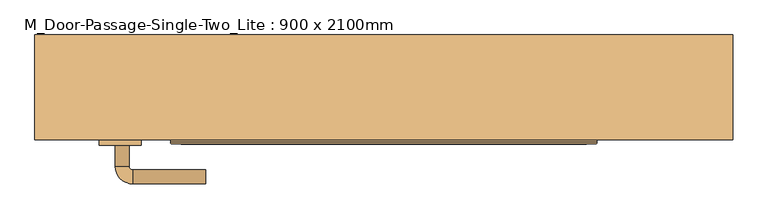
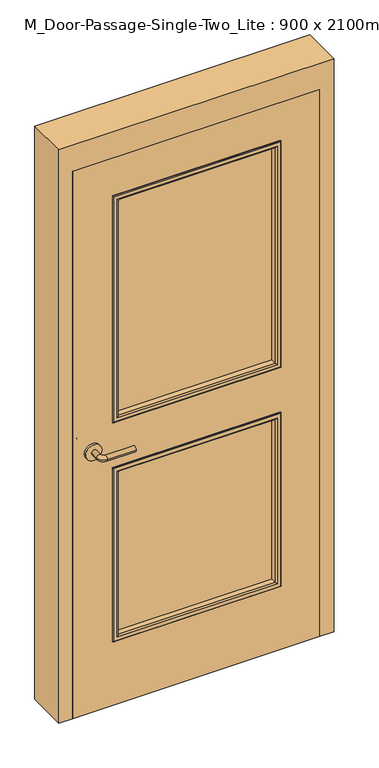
"""IFC4 building model written with IfcOpenShell, lengths in millimetres: door geometry, M_Door-Passage-Single-Two_Lite : 900 x 2100mm."""

from ifc_helpers import new_model, si_unit, point, frame, frame_2d, origin, place, context, project, spatial, polyline, circle_curve, ellipse_curve, trimmed, segment, composite_curve, outline, extrude, faceted_brep, source, transform, mapped, element, save
from ifc_brep_helpers import plane_surface, cylinder_surface, revolved_surface, advanced_brep


def m_door_passage_single_two_lite_900_x_2100mm_fdf17de1(model_context):
    return source(origin(), model_context, "Body", "SolidModel", [
        advanced_brep(
        [(-384.990625, 26.65, 1000.0), (-364.990625, 26.65, 1000.0), (-384.990625, 56.65, 1000.0), (-364.990625, 56.65, 1000.0), (-359.990625, 61.65, 1000.0), (-359.990625, 81.65, 1000.0), (-254.990625, 81.65, 1000.0), (-254.990625, 61.65, 1000.0)],
        [
            (0, 1, circle_curve(frame((-374.990625, 26.65, 1000.0), z_axis=(0.0, -1.0, 0.0), x_axis=(1.0, 0.0, 0.0)), 10.0)),
            (1, 0, circle_curve(frame((-374.990625, 26.65, 1000.0), z_axis=(0.0, -1.0, 0.0), x_axis=(1.0, 0.0, 0.0)), 10.0)),
            (0, 2),
            (2, 3, circle_curve(frame((-374.990625, 56.65, 1000.0), z_axis=(0.0, -1.0, 0.0), x_axis=(1.0, 0.0, 0.0)), 10.0)),
            (3, 1),
            (3, 2, circle_curve(frame((-374.990625, 56.65, 1000.0), z_axis=(0.0, -1.0, 0.0), x_axis=(1.0, 0.0, 0.0)), 10.0)),
            (4, 3, circle_curve(frame((-359.990625, 56.65, 1000.0), z_axis=(0.0, 0.0, 1.0), x_axis=(-1.0, 0.0, 0.0)), 5.0)),
            (2, 5, circle_curve(frame((-359.990625, 56.65, 1000.0), z_axis=(0.0, 0.0, -1.0), x_axis=(-1.0, 0.0, 0.0)), 25.0)),
            (5, 4, circle_curve(frame((-359.990625, 71.65, 1000.0), z_axis=(-1.0, 0.0, 0.0), x_axis=(0.0, -1.0, 0.0)), 10.0)),
            (4, 5, circle_curve(frame((-359.990625, 71.65, 1000.0), z_axis=(-1.0, 0.0, 0.0), x_axis=(0.0, -1.0, 0.0)), 10.0)),
            (6, 7, circle_curve(frame((-254.990625, 71.65, 1000.0), z_axis=(1.0, 0.0, 0.0), x_axis=(0.0, -1.0, 0.0)), 10.0)),
            (7, 6, circle_curve(frame((-254.990625, 71.65, 1000.0), z_axis=(1.0, 0.0, 0.0), x_axis=(0.0, -1.0, 0.0)), 10.0)),
            (5, 6),
            (7, 4),
        ],
        [
            plane_surface(frame((-374.990625, 26.65, 1000.0), z_axis=(0.0, -1.0, 0.0), x_axis=(0.0, 0.0, 1.0))),
            cylinder_surface(frame((-374.990625, 26.65, 1000.0), z_axis=(0.0, -1.0, 0.0), x_axis=(1.0, 0.0, 0.0)), 10.0),
            revolved_surface(trimmed(ellipse_curve(frame((-374.990625, 56.65, 1000.0), z_axis=(0.0, -1.0, 0.0), x_axis=(1.0, 0.0, 0.0)), 10.0, 10.0), [point((-384.990625, 56.65, 1000.0))], [point((-364.990625, 56.65, 1000.0))], True, "CARTESIAN"), (-359.990625, 56.65, 1000.0), (0.0, 0.0, -1.0)),
            revolved_surface(trimmed(ellipse_curve(frame((-374.990625, 56.65, 1000.0), z_axis=(0.0, -1.0, 0.0), x_axis=(1.0, 0.0, 0.0)), 10.0, 10.0), [point((-364.990625, 56.65, 1000.0))], [point((-384.990625, 56.65, 1000.0))], True, "CARTESIAN"), (-359.990625, 56.65, 1000.0), (0.0, 0.0, -1.0)),
            plane_surface(frame((-254.990625, 71.65, 1000.0), z_axis=(1.0, 0.0, 0.0), x_axis=(0.0, 0.0, 1.0))),
            cylinder_surface(frame((-359.990625, 71.65, 1000.0), z_axis=(-1.0, 0.0, 0.0), x_axis=(0.0, -1.0, 0.0)), 10.0),
        ],
        [
            (0, [[1, 2]]),
            (1, [[-1, 3, 4, 5]]),
            (1, [[-2, -5, 6, -3]]),
            (2, [[7, -4, 8, 9]]),
            (3, [[-8, -6, -7, 10]]),
            (4, [[11, 12]]),
            (5, [[-9, 13, -12, 14]]),
            (5, [[-10, -14, -11, -13]]),
        ],
    ),
        extrude(outline(composite_curve([segment(trimmed(circle_curve(frame_2d((1000.0, -377.490625)), 30.0), [point((1000.0, -407.490625))], [point((1000.0, -347.490625))], False, "CARTESIAN"), True, "CONTINUOUS"), segment(trimmed(circle_curve(frame_2d((1000.0, -377.490625)), 30.0), [point((1000.0, -347.490625))], [point((1000.0, -407.490625))], False, "CARTESIAN"), True, "CONTINUOUS")], self_intersect=False)), frame((0.0, 18.65, 0.0), z_axis=(0.0, 1.0, 0.0), x_axis=(0.0, 0.0, 1.0)), (0.0, 0.0, 1.0), 8.0),
        advanced_brep(
        [(-384.990625, -34.35, 1000.0), (-364.990625, -34.35, 1000.0), (-364.990625, -64.35, 1000.0), (-384.990625, -64.35, 1000.0), (-359.990625, -69.35, 1000.0), (-359.990625, -89.35, 1000.0), (-254.990625, -89.35, 1000.0), (-254.990625, -69.35, 1000.0)],
        [
            (0, 1, circle_curve(frame((-374.990625, -34.35, 1000.0), z_axis=(0.0, 1.0, 0.0), x_axis=(1.0, 0.0, 0.0)), 10.0)),
            (1, 0, circle_curve(frame((-374.990625, -34.35, 1000.0), z_axis=(0.0, 1.0, 0.0), x_axis=(1.0, 0.0, 0.0)), 10.0)),
            (1, 2),
            (2, 3, circle_curve(frame((-374.990625, -64.35, 1000.0), z_axis=(0.0, 1.0, 0.0), x_axis=(1.0, 0.0, 0.0)), 10.0)),
            (3, 0),
            (3, 2, circle_curve(frame((-374.990625, -64.35, 1000.0), z_axis=(0.0, 1.0, 0.0), x_axis=(1.0, 0.0, 0.0)), 10.0)),
            (4, 5, circle_curve(frame((-359.990625, -79.35, 1000.0), z_axis=(-1.0, 0.0, 0.0), x_axis=(0.0, 1.0, 0.0)), 10.0)),
            (5, 3, circle_curve(frame((-359.990625, -64.35, 1000.0), z_axis=(0.0, 0.0, -1.0), x_axis=(-1.0, 0.0, 0.0)), 25.0)),
            (2, 4, circle_curve(frame((-359.990625, -64.35, 1000.0), z_axis=(0.0, 0.0, 1.0), x_axis=(-1.0, 0.0, 0.0)), 5.0)),
            (5, 4, circle_curve(frame((-359.990625, -79.35, 1000.0), z_axis=(-1.0, 0.0, 0.0), x_axis=(0.0, 1.0, 0.0)), 10.0)),
            (6, 7, circle_curve(frame((-254.990625, -79.35, 1000.0), z_axis=(1.0, 0.0, 0.0), x_axis=(0.0, 1.0, 0.0)), 10.0)),
            (7, 6, circle_curve(frame((-254.990625, -79.35, 1000.0), z_axis=(1.0, 0.0, 0.0), x_axis=(0.0, 1.0, 0.0)), 10.0)),
            (4, 7),
            (6, 5),
        ],
        [
            plane_surface(frame((-374.990625, -34.35, 1000.0), z_axis=(0.0, 1.0, 0.0), x_axis=(0.0, 0.0, 1.0))),
            cylinder_surface(frame((-374.990625, -34.35, 1000.0), z_axis=(0.0, 1.0, 0.0), x_axis=(1.0, 0.0, 0.0)), 10.0),
            revolved_surface(trimmed(ellipse_curve(frame((-374.990625, -64.35, 1000.0), z_axis=(0.0, -1.0, 0.0), x_axis=(1.0, 0.0, 0.0)), 10.0, 10.0), [point((-384.990625, -64.35, 1000.0))], [point((-364.990625, -64.35, 1000.0))], True, "CARTESIAN"), (-359.990625, -64.35, 1000.0), (0.0, 0.0, -1.0)),
            revolved_surface(trimmed(ellipse_curve(frame((-374.990625, -64.35, 1000.0), z_axis=(0.0, -1.0, 0.0), x_axis=(1.0, 0.0, 0.0)), 10.0, 10.0), [point((-364.990625, -64.35, 1000.0))], [point((-384.990625, -64.35, 1000.0))], True, "CARTESIAN"), (-359.990625, -64.35, 1000.0), (0.0, 0.0, -1.0)),
            plane_surface(frame((-254.990625, -79.35, 1000.0), z_axis=(1.0, 0.0, 0.0), x_axis=(0.0, 0.0, 1.0))),
            cylinder_surface(frame((-359.990625, -79.35, 1000.0), z_axis=(-1.0, 0.0, 0.0), x_axis=(0.0, 1.0, 0.0)), 10.0),
        ],
        [
            (0, [[1, 2]]),
            (1, [[3, 4, 5, -2]]),
            (1, [[-5, 6, -3, -1]]),
            (2, [[7, 8, -4, 9]]),
            (3, [[10, -9, -6, -8]]),
            (4, [[11, 12]]),
            (5, [[13, -11, 14, -7]]),
            (5, [[-14, -12, -13, -10]]),
        ],
    ),
        extrude(outline(composite_curve([segment(trimmed(circle_curve(frame_2d((1000.0, -377.490625)), 30.0), [point((1000.0, -407.490625))], [point((1000.0, -347.490625))], False, "CARTESIAN"), True, "CONTINUOUS"), segment(trimmed(circle_curve(frame_2d((1000.0, -377.490625)), 30.0), [point((1000.0, -347.490625))], [point((1000.0, -407.490625))], False, "CARTESIAN"), True, "CONTINUOUS")], self_intersect=False)), frame((0.0, -34.35, 0.0), z_axis=(0.0, 1.0, 0.0), x_axis=(0.0, 0.0, 1.0)), (0.0, 0.0, 1.0), 8.0),
        faceted_brep([(450.0, 23.4125, 0.0), (434.125, 23.4125, 0.0), (434.125, 74.4375, 0.0), (450.0, 74.4375, 0.0), (450.0, 123.65, 0.0), (500.0, 123.65, 0.0), (500.0, -26.35, 0.0), (450.0, -26.35, 0.0), (450.0, -26.35, 2100.0), (450.0, 23.4125, 2100.0), (500.0, -26.35, 2200.0), (-500.0, -26.35, 2200.0), (-500.0, -26.35, 0.0), (-450.0, -26.35, 0.0), (-450.0, -26.35, 2100.0), (500.0, 123.65, 2200.0), (450.0, 123.65, 2100.0), (-450.0, 123.65, 2100.0), (-450.0, 123.65, 0.0), (-500.0, 123.65, 0.0), (-500.0, 123.65, 2200.0), (450.0, 74.4375, 2100.0), (434.125, 74.4375, 2084.125), (-434.125, 74.4375, 2084.125), (-434.125, 74.4375, 0.0), (-450.0, 74.4375, 0.0), (-450.0, 74.4375, 2100.0), (434.125, 23.4125, 2084.125), (-450.0, 23.4125, 2100.0), (-450.0, 23.4125, 0.0), (-434.125, 23.4125, 0.0), (-434.125, 23.4125, 2084.125)], [[[0, 1, 2, 3, 4, 5, 6, 7]], [[7, 8, 9, 0]], [[6, 10, 11, 12, 13, 14, 8, 7]], [[5, 15, 10, 6]], [[4, 16, 17, 18, 19, 20, 15, 5]], [[3, 21, 16, 4]], [[2, 22, 23, 24, 25, 26, 21, 3]], [[1, 27, 22, 2]], [[0, 9, 28, 29, 30, 31, 27, 1]], [[8, 14, 28, 9]], [[16, 21, 26, 17]], [[22, 27, 31, 23]], [[12, 19, 18, 25, 24, 30, 29, 13]], [[13, 29, 28, 14]], [[11, 20, 19, 12]], [[17, 26, 25, 18]], [[23, 31, 30, 24]], [[15, 20, 11, 10]]]),
        extrude(outline(polyline([(2100.0, -450.0), (0.0, -450.0), (0.0, 450.0), (2100.0, 450.0), (2100.0, -450.0)]), holes=[polyline([(1947.6, -297.6), (1947.6, 297.6), (1095.25, 297.6), (1095.25, -297.6), (1947.6, -297.6)]), polyline([(904.75, -297.6), (904.75, 297.6), (254.0, 297.6), (254.0, -297.6), (904.75, -297.6)])]), frame((0.0, -26.35, 0.0), z_axis=(0.0, 1.0, 0.0), x_axis=(0.0, 0.0, 1.0)), (0.0, 0.0, 1.0), 45.0),
        extrude(outline(polyline([(297.6, -1.35), (297.6, -6.35), (-297.6, -6.35), (-297.6, -1.35), (297.6, -1.35)])), frame((0.0, 0.0, 1095.25), z_axis=(0.0, 0.0, 1.0), x_axis=(1.0, 0.0, 0.0)), (0.0, 0.0, 1.0), 852.35),
        extrude(outline(polyline([(297.6, -1.35), (297.6, -6.35), (-297.6, -6.35), (-297.6, -1.35), (297.6, -1.35)])), frame((0.0, 0.0, 254.0), z_axis=(0.0, 0.0, 1.0), x_axis=(1.0, 0.0, 0.0)), (0.0, 0.0, 1.0), 650.75),
        advanced_brep(
        [(297.6, -1.35, 904.75), (297.6, -1.35, 254.0), (297.6, 18.65, 254.0), (297.6, 18.65, 904.75), (285.6, 19.65, 892.75), (285.6, 19.65, 266.0), (285.6, -1.35, 266.0), (285.6, -1.35, 892.75), (290.6, 24.65, 897.75), (290.6, 24.65, 261.0), (305.6, 22.65, 912.75), (305.6, 22.65, 246.0), (303.6, 24.65, 248.0), (303.6, 24.65, 910.75), (305.6, 18.65, 912.75), (305.6, 18.65, 246.0), (-297.6, -1.35, 254.0), (-297.6, 18.65, 254.0), (-285.6, 19.65, 266.0), (-285.6, -1.35, 266.0), (-290.6, 24.65, 261.0), (-305.6, 22.65, 246.0), (-303.6, 24.65, 248.0), (-305.6, 18.65, 246.0), (-297.6, -1.35, 904.75), (-297.6, 18.65, 904.75), (-285.6, 19.65, 892.75), (-285.6, -1.35, 892.75), (-290.6, 24.65, 897.75), (-305.6, 22.65, 912.75), (-303.6, 24.65, 910.75), (-305.6, 18.65, 912.75)],
        [
            (0, 1),
            (1, 2),
            (2, 3),
            (3, 0),
            (4, 5),
            (5, 6),
            (6, 7),
            (7, 4),
            (8, 9),
            (9, 5, ellipse_curve(frame((290.6, 19.65, 261.0), z_axis=(0.7071067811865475, 0.0, 0.7071067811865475), x_axis=(-0.7071067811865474, 0.0, 0.7071067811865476)), 7.0710678, 5.0)),
            (4, 8, ellipse_curve(frame((290.6, 19.65, 897.75), z_axis=(0.7071067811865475, 0.0, -0.7071067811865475), x_axis=(0.7071067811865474, 0.0, 0.7071067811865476)), 7.0710678, 5.0)),
            (10, 11),
            (11, 12, ellipse_curve(frame((303.6, 22.65, 248.0), z_axis=(0.7071067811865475, 0.0, 0.7071067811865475), x_axis=(-0.7071067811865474, 0.0, 0.7071067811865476)), 2.8284271, 2.0)),
            (12, 13),
            (13, 10, ellipse_curve(frame((303.6, 22.65, 910.75), z_axis=(0.7071067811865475, 0.0, -0.7071067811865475), x_axis=(0.7071067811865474, 0.0, 0.7071067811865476)), 2.8284271, 2.0)),
            (14, 15),
            (15, 11),
            (10, 14),
            (1, 16),
            (16, 17),
            (17, 2),
            (5, 18),
            (18, 19),
            (19, 6),
            (9, 20),
            (20, 18, ellipse_curve(frame((-290.6, 19.65, 261.0), z_axis=(0.7071067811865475, 0.0, -0.7071067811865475), x_axis=(0.7071067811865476, 0.0, 0.7071067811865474)), 7.0710678, 5.0)),
            (11, 21),
            (21, 22, ellipse_curve(frame((-303.6, 22.65, 248.0), z_axis=(0.7071067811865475, 0.0, -0.7071067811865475), x_axis=(0.7071067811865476, 0.0, 0.7071067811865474)), 2.8284271, 2.0)),
            (22, 12),
            (15, 23),
            (23, 21),
            (16, 24),
            (24, 25),
            (25, 17),
            (18, 26),
            (26, 27),
            (27, 19),
            (20, 28),
            (28, 26, ellipse_curve(frame((-290.6, 19.65, 897.75), z_axis=(-0.7071067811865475, 0.0, -0.7071067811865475), x_axis=(0.7071067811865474, 0.0, -0.7071067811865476)), 7.0710678, 5.0)),
            (21, 29),
            (29, 30, ellipse_curve(frame((-303.6, 22.65, 910.75), z_axis=(-0.7071067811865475, 0.0, -0.7071067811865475), x_axis=(0.7071067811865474, 0.0, -0.7071067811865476)), 2.8284271, 2.0)),
            (30, 22),
            (23, 31),
            (31, 29),
            (14, 31),
            (25, 3),
            (24, 0),
            (27, 7),
            (26, 4),
            (28, 8),
            (30, 13),
            (29, 10),
        ],
        [
            plane_surface(frame((297.6, 18.65, 904.75), z_axis=(1.0, 0.0, 0.0), x_axis=(0.0, 0.0, -1.0))),
            plane_surface(frame((285.6, -1.35, 892.75), z_axis=(-1.0, 0.0, 0.0), x_axis=(0.0, 0.0, -1.0))),
            cylinder_surface(frame((290.6, 19.65, 904.75), z_axis=(0.0, 0.0, 1.0), x_axis=(1.0, 0.0, 0.0)), 5.0),
            cylinder_surface(frame((303.6, 22.65, 904.75), z_axis=(0.0, 0.0, 1.0), x_axis=(1.0, 0.0, 0.0)), 2.0),
            plane_surface(frame((305.6, 22.65, 912.75), z_axis=(1.0, 0.0, 0.0), x_axis=(0.0, 0.0, -1.0))),
            plane_surface(frame((297.6, 18.65, 254.0), z_axis=(0.0, 0.0, -1.0), x_axis=(-1.0, 0.0, 0.0))),
            plane_surface(frame((285.6, -1.35, 266.0), z_axis=(0.0, 0.0, 1.0), x_axis=(-1.0, 0.0, 0.0))),
            cylinder_surface(frame((297.6, 19.65, 261.0), z_axis=(1.0, 0.0, 0.0), x_axis=(0.0, 0.0, -1.0)), 5.0),
            cylinder_surface(frame((297.6, 22.65, 248.0), z_axis=(1.0, 0.0, 0.0), x_axis=(0.0, 0.0, -1.0)), 2.0),
            plane_surface(frame((305.6, 22.65, 246.0), z_axis=(0.0, 0.0, -1.0), x_axis=(-1.0, 0.0, 0.0))),
            plane_surface(frame((-297.6, 18.65, 254.0), z_axis=(-1.0, 0.0, 0.0), x_axis=(0.0, 0.0, 1.0))),
            plane_surface(frame((-285.6, -1.35, 266.0), z_axis=(1.0, 0.0, 0.0), x_axis=(0.0, 0.0, 1.0))),
            cylinder_surface(frame((-290.6, 19.65, 254.0), z_axis=(0.0, 0.0, -1.0), x_axis=(-1.0, 0.0, 0.0)), 5.0),
            cylinder_surface(frame((-303.6, 22.65, 254.0), z_axis=(0.0, 0.0, -1.0), x_axis=(-1.0, 0.0, 0.0)), 2.0),
            plane_surface(frame((-305.6, 22.65, 246.0), z_axis=(-1.0, 0.0, 0.0), x_axis=(0.0, 0.0, 1.0))),
            plane_surface(frame((-305.6, 18.65, 912.75), z_axis=(0.0, -1.0, 0.0), x_axis=(1.0, 0.0, 0.0))),
            plane_surface(frame((-297.6, 18.65, 904.75), z_axis=(0.0, 0.0, 1.0), x_axis=(1.0, 0.0, 0.0))),
            plane_surface(frame((-297.6, -1.35, 904.75), z_axis=(0.0, -1.0, 0.0), x_axis=(1.0, 0.0, 0.0))),
            plane_surface(frame((-285.6, -1.35, 892.75), z_axis=(0.0, 0.0, -1.0), x_axis=(1.0, 0.0, 0.0))),
            cylinder_surface(frame((-297.6, 19.65, 897.75), z_axis=(-1.0, 0.0, 0.0), x_axis=(0.0, 0.0, 1.0)), 5.0),
            plane_surface(frame((-290.6, 24.65, 897.75), z_axis=(0.0, 1.0, 0.0), x_axis=(1.0, 0.0, 0.0))),
            cylinder_surface(frame((-297.6, 22.65, 910.75), z_axis=(-1.0, 0.0, 0.0), x_axis=(0.0, 0.0, 1.0)), 2.0),
            plane_surface(frame((-305.6, 22.65, 912.75), z_axis=(0.0, 0.0, 1.0), x_axis=(1.0, 0.0, 0.0))),
        ],
        [
            (0, [[1, 2, 3, 4]]),
            (1, [[5, 6, 7, 8]]),
            (2, [[9, 10, -5, 11]]),
            (3, [[12, 13, 14, 15]]),
            (4, [[16, 17, -12, 18]]),
            (5, [[19, 20, 21, -2]]),
            (6, [[22, 23, 24, -6]]),
            (7, [[25, 26, -22, -10]]),
            (8, [[27, 28, 29, -13]]),
            (9, [[30, 31, -27, -17]]),
            (10, [[32, 33, 34, -20]]),
            (11, [[35, 36, 37, -23]]),
            (12, [[38, 39, -35, -26]]),
            (13, [[40, 41, 42, -28]]),
            (14, [[43, 44, -40, -31]]),
            (15, [[-16, 45, -43, -30], [-3, -21, -34, 46]]),
            (16, [[47, -4, -46, -33]]),
            (17, [[-1, -47, -32, -19], [-7, -24, -37, 48]]),
            (18, [[49, -8, -48, -36]]),
            (19, [[50, -11, -49, -39]]),
            (20, [[-14, -29, -42, 51], [-9, -50, -38, -25]]),
            (21, [[52, -15, -51, -41]]),
            (22, [[-45, -18, -52, -44]]),
        ],
    ),
        advanced_brep(
        [(-297.6, -6.35, 904.75), (-297.6, -6.35, 254.0), (-297.6, -26.35, 254.0), (-297.6, -26.35, 904.75), (-285.6, -27.35, 892.75), (-285.6, -27.35, 266.0), (-285.6, -6.35, 266.0), (-285.6, -6.35, 892.75), (-290.6, -32.35, 897.75), (-290.6, -32.35, 261.0), (-305.6, -30.35, 912.75), (-305.6, -30.35, 246.0), (-303.6, -32.35, 248.0), (-303.6, -32.35, 910.75), (-305.6, -26.35, 912.75), (-305.6, -26.35, 246.0), (297.6, -6.35, 254.0), (297.6, -26.35, 254.0), (285.6, -27.35, 266.0), (285.6, -6.35, 266.0), (290.6, -32.35, 261.0), (305.6, -30.35, 246.0), (303.6, -32.35, 248.0), (305.6, -26.35, 246.0), (297.6, -6.35, 904.75), (297.6, -26.35, 904.75), (285.6, -27.35, 892.75), (285.6, -6.35, 892.75), (290.6, -32.35, 897.75), (305.6, -30.35, 912.75), (303.6, -32.35, 910.75), (305.6, -26.35, 912.75)],
        [
            (0, 1),
            (1, 2),
            (2, 3),
            (3, 0),
            (4, 5),
            (5, 6),
            (6, 7),
            (7, 4),
            (8, 9),
            (9, 5, ellipse_curve(frame((-290.6, -27.35, 261.0), z_axis=(-0.7071067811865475, 0.0, 0.7071067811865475), x_axis=(0.7071067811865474, 0.0, 0.7071067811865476)), 7.0710678, 5.0)),
            (4, 8, ellipse_curve(frame((-290.6, -27.35, 897.75), z_axis=(-0.7071067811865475, 0.0, -0.7071067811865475), x_axis=(-0.7071067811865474, 0.0, 0.7071067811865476)), 7.0710678, 5.0)),
            (10, 11),
            (11, 12, ellipse_curve(frame((-303.6, -30.35, 248.0), z_axis=(-0.7071067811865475, 0.0, 0.7071067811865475), x_axis=(0.7071067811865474, 0.0, 0.7071067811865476)), 2.8284271, 2.0)),
            (12, 13),
            (13, 10, ellipse_curve(frame((-303.6, -30.35, 910.75), z_axis=(-0.7071067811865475, 0.0, -0.7071067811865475), x_axis=(-0.7071067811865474, 0.0, 0.7071067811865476)), 2.8284271, 2.0)),
            (14, 15),
            (15, 11),
            (10, 14),
            (1, 16),
            (16, 17),
            (17, 2),
            (5, 18),
            (18, 19),
            (19, 6),
            (9, 20),
            (20, 18, ellipse_curve(frame((290.6, -27.35, 261.0), z_axis=(-0.7071067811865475, 0.0, -0.7071067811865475), x_axis=(-0.7071067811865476, 0.0, 0.7071067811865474)), 7.0710678, 5.0)),
            (11, 21),
            (21, 22, ellipse_curve(frame((303.6, -30.35, 248.0), z_axis=(-0.7071067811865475, 0.0, -0.7071067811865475), x_axis=(-0.7071067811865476, 0.0, 0.7071067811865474)), 2.8284271, 2.0)),
            (22, 12),
            (15, 23),
            (23, 21),
            (16, 24),
            (24, 25),
            (25, 17),
            (18, 26),
            (26, 27),
            (27, 19),
            (20, 28),
            (28, 26, ellipse_curve(frame((290.6, -27.35, 897.75), z_axis=(0.7071067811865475, 0.0, -0.7071067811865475), x_axis=(-0.7071067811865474, 0.0, -0.7071067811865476)), 7.0710678, 5.0)),
            (21, 29),
            (29, 30, ellipse_curve(frame((303.6, -30.35, 910.75), z_axis=(0.7071067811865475, 0.0, -0.7071067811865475), x_axis=(-0.7071067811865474, 0.0, -0.7071067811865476)), 2.8284271, 2.0)),
            (30, 22),
            (23, 31),
            (31, 29),
            (14, 31),
            (25, 3),
            (24, 0),
            (27, 7),
            (26, 4),
            (28, 8),
            (30, 13),
            (29, 10),
        ],
        [
            plane_surface(frame((-297.6, -26.35, 904.75), z_axis=(-1.0, 0.0, 0.0), x_axis=(0.0, 0.0, -1.0))),
            plane_surface(frame((-285.6, -6.35, 892.75), z_axis=(1.0, 0.0, 0.0), x_axis=(0.0, 0.0, -1.0))),
            cylinder_surface(frame((-290.6, -27.35, 904.75), z_axis=(0.0, 0.0, 1.0), x_axis=(-1.0, 0.0, 0.0)), 5.0),
            cylinder_surface(frame((-303.6, -30.35, 904.75), z_axis=(0.0, 0.0, 1.0), x_axis=(-1.0, 0.0, 0.0)), 2.0),
            plane_surface(frame((-305.6, -30.35, 912.75), z_axis=(-1.0, 0.0, 0.0), x_axis=(0.0, 0.0, -1.0))),
            plane_surface(frame((-297.6, -26.35, 254.0), z_axis=(0.0, 0.0, -1.0), x_axis=(1.0, 0.0, 0.0))),
            plane_surface(frame((-285.6, -6.35, 266.0), z_axis=(0.0, 0.0, 1.0), x_axis=(1.0, 0.0, 0.0))),
            cylinder_surface(frame((-297.6, -27.35, 261.0), z_axis=(-1.0, 0.0, 0.0), x_axis=(0.0, 0.0, -1.0)), 5.0),
            cylinder_surface(frame((-297.6, -30.35, 248.0), z_axis=(-1.0, 0.0, 0.0), x_axis=(0.0, 0.0, -1.0)), 2.0),
            plane_surface(frame((-305.6, -30.35, 246.0), z_axis=(0.0, 0.0, -1.0), x_axis=(1.0, 0.0, 0.0))),
            plane_surface(frame((297.6, -26.35, 254.0), z_axis=(1.0, 0.0, 0.0), x_axis=(0.0, 0.0, 1.0))),
            plane_surface(frame((285.6, -6.35, 266.0), z_axis=(-1.0, 0.0, 0.0), x_axis=(0.0, 0.0, 1.0))),
            cylinder_surface(frame((290.6, -27.35, 254.0), z_axis=(0.0, 0.0, -1.0), x_axis=(1.0, 0.0, 0.0)), 5.0),
            cylinder_surface(frame((303.6, -30.35, 254.0), z_axis=(0.0, 0.0, -1.0), x_axis=(1.0, 0.0, 0.0)), 2.0),
            plane_surface(frame((305.6, -30.35, 246.0), z_axis=(1.0, 0.0, 0.0), x_axis=(0.0, 0.0, 1.0))),
            plane_surface(frame((305.6, -26.35, 912.75), z_axis=(0.0, 1.0, 0.0), x_axis=(-1.0, 0.0, 0.0))),
            plane_surface(frame((297.6, -26.35, 904.75), z_axis=(0.0, 0.0, 1.0), x_axis=(-1.0, 0.0, 0.0))),
            plane_surface(frame((297.6, -6.35, 904.75), z_axis=(0.0, 1.0, 0.0), x_axis=(-1.0, 0.0, 0.0))),
            plane_surface(frame((285.6, -6.35, 892.75), z_axis=(0.0, 0.0, -1.0), x_axis=(-1.0, 0.0, 0.0))),
            cylinder_surface(frame((297.6, -27.35, 897.75), z_axis=(1.0, 0.0, 0.0), x_axis=(0.0, 0.0, 1.0)), 5.0),
            plane_surface(frame((290.6, -32.35, 897.75), z_axis=(0.0, -1.0, 0.0), x_axis=(-1.0, 0.0, 0.0))),
            cylinder_surface(frame((297.6, -30.35, 910.75), z_axis=(1.0, 0.0, 0.0), x_axis=(0.0, 0.0, 1.0)), 2.0),
            plane_surface(frame((305.6, -30.35, 912.75), z_axis=(0.0, 0.0, 1.0), x_axis=(-1.0, 0.0, 0.0))),
        ],
        [
            (0, [[1, 2, 3, 4]]),
            (1, [[5, 6, 7, 8]]),
            (2, [[9, 10, -5, 11]]),
            (3, [[12, 13, 14, 15]]),
            (4, [[16, 17, -12, 18]]),
            (5, [[19, 20, 21, -2]]),
            (6, [[22, 23, 24, -6]]),
            (7, [[25, 26, -22, -10]]),
            (8, [[27, 28, 29, -13]]),
            (9, [[30, 31, -27, -17]]),
            (10, [[32, 33, 34, -20]]),
            (11, [[35, 36, 37, -23]]),
            (12, [[38, 39, -35, -26]]),
            (13, [[40, 41, 42, -28]]),
            (14, [[43, 44, -40, -31]]),
            (15, [[-16, 45, -43, -30], [-3, -21, -34, 46]]),
            (16, [[47, -4, -46, -33]]),
            (17, [[-1, -47, -32, -19], [-7, -24, -37, 48]]),
            (18, [[49, -8, -48, -36]]),
            (19, [[50, -11, -49, -39]]),
            (20, [[-14, -29, -42, 51], [-9, -50, -38, -25]]),
            (21, [[52, -15, -51, -41]]),
            (22, [[-45, -18, -52, -44]]),
        ],
    ),
        advanced_brep(
        [(-297.6, -1.35, 1095.25), (-297.6, -1.35, 1947.6), (-297.6, 18.65, 1947.6), (-297.6, 18.65, 1095.25), (-285.6, 19.65, 1107.25), (-285.6, 19.65, 1935.6), (-285.6, -1.35, 1935.6), (-285.6, -1.35, 1107.25), (-290.6, 24.65, 1102.25), (-290.6, 24.65, 1940.6), (-305.6, 22.65, 1087.25), (-305.6, 22.65, 1955.6), (-303.6, 24.65, 1953.6), (-303.6, 24.65, 1089.25), (-305.6, 18.65, 1087.25), (-305.6, 18.65, 1955.6), (297.6, -1.35, 1947.6), (297.6, 18.65, 1947.6), (285.6, 19.65, 1935.6), (285.6, -1.35, 1935.6), (290.6, 24.65, 1940.6), (305.6, 22.65, 1955.6), (303.6, 24.65, 1953.6), (305.6, 18.65, 1955.6), (297.6, -1.35, 1095.25), (297.6, 18.65, 1095.25), (285.6, 19.65, 1107.25), (285.6, -1.35, 1107.25), (290.6, 24.65, 1102.25), (305.6, 22.65, 1087.25), (303.6, 24.65, 1089.25), (305.6, 18.65, 1087.25)],
        [
            (0, 1),
            (1, 2),
            (2, 3),
            (3, 0),
            (4, 5),
            (5, 6),
            (6, 7),
            (7, 4),
            (8, 9),
            (9, 5, ellipse_curve(frame((-290.6, 19.65, 1940.6), z_axis=(-0.7071067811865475, 0.0, -0.7071067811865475), x_axis=(0.7071067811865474, 0.0, -0.7071067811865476)), 7.0710678, 5.0)),
            (4, 8, ellipse_curve(frame((-290.6, 19.65, 1102.25), z_axis=(-0.7071067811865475, 0.0, 0.7071067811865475), x_axis=(-0.7071067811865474, 0.0, -0.7071067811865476)), 7.0710678, 5.0)),
            (10, 11),
            (11, 12, ellipse_curve(frame((-303.6, 22.65, 1953.6), z_axis=(-0.7071067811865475, 0.0, -0.7071067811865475), x_axis=(0.7071067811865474, 0.0, -0.7071067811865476)), 2.8284271, 2.0)),
            (12, 13),
            (13, 10, ellipse_curve(frame((-303.6, 22.65, 1089.25), z_axis=(-0.7071067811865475, 0.0, 0.7071067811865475), x_axis=(-0.7071067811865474, 0.0, -0.7071067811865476)), 2.8284271, 2.0)),
            (14, 15),
            (15, 11),
            (10, 14),
            (1, 16),
            (16, 17),
            (17, 2),
            (5, 18),
            (18, 19),
            (19, 6),
            (9, 20),
            (20, 18, ellipse_curve(frame((290.6, 19.65, 1940.6), z_axis=(-0.7071067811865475, 0.0, 0.7071067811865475), x_axis=(-0.7071067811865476, 0.0, -0.7071067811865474)), 7.0710678, 5.0)),
            (11, 21),
            (21, 22, ellipse_curve(frame((303.6, 22.65, 1953.6), z_axis=(-0.7071067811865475, 0.0, 0.7071067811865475), x_axis=(-0.7071067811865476, 0.0, -0.7071067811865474)), 2.8284271, 2.0)),
            (22, 12),
            (15, 23),
            (23, 21),
            (16, 24),
            (24, 25),
            (25, 17),
            (18, 26),
            (26, 27),
            (27, 19),
            (20, 28),
            (28, 26, ellipse_curve(frame((290.6, 19.65, 1102.25), z_axis=(0.7071067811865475, 0.0, 0.7071067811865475), x_axis=(-0.7071067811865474, 0.0, 0.7071067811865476)), 7.0710678, 5.0)),
            (21, 29),
            (29, 30, ellipse_curve(frame((303.6, 22.65, 1089.25), z_axis=(0.7071067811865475, 0.0, 0.7071067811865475), x_axis=(-0.7071067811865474, 0.0, 0.7071067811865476)), 2.8284271, 2.0)),
            (30, 22),
            (23, 31),
            (31, 29),
            (14, 31),
            (25, 3),
            (24, 0),
            (27, 7),
            (26, 4),
            (28, 8),
            (30, 13),
            (29, 10),
        ],
        [
            plane_surface(frame((-297.6, 18.65, 1095.25), z_axis=(-1.0, 0.0, 0.0), x_axis=(0.0, 0.0, 1.0))),
            plane_surface(frame((-285.6, -1.35, 1107.25), z_axis=(1.0, 0.0, 0.0), x_axis=(0.0, 0.0, 1.0))),
            cylinder_surface(frame((-290.6, 19.65, 1095.25), z_axis=(0.0, 0.0, -1.0), x_axis=(-1.0, 0.0, 0.0)), 5.0),
            cylinder_surface(frame((-303.6, 22.65, 1095.25), z_axis=(0.0, 0.0, -1.0), x_axis=(-1.0, 0.0, 0.0)), 2.0),
            plane_surface(frame((-305.6, 22.65, 1087.25), z_axis=(-1.0, 0.0, 0.0), x_axis=(0.0, 0.0, 1.0))),
            plane_surface(frame((-297.6, 18.65, 1947.6), z_axis=(0.0, 0.0, 1.0), x_axis=(1.0, 0.0, 0.0))),
            plane_surface(frame((-285.6, -1.35, 1935.6), z_axis=(0.0, 0.0, -1.0), x_axis=(1.0, 0.0, 0.0))),
            cylinder_surface(frame((-297.6, 19.65, 1940.6), z_axis=(-1.0, 0.0, 0.0), x_axis=(0.0, 0.0, 1.0)), 5.0),
            cylinder_surface(frame((-297.6, 22.65, 1953.6), z_axis=(-1.0, 0.0, 0.0), x_axis=(0.0, 0.0, 1.0)), 2.0),
            plane_surface(frame((-305.6, 22.65, 1955.6), z_axis=(0.0, 0.0, 1.0), x_axis=(1.0, 0.0, 0.0))),
            plane_surface(frame((297.6, 18.65, 1947.6), z_axis=(1.0, 0.0, 0.0), x_axis=(0.0, 0.0, -1.0))),
            plane_surface(frame((285.6, -1.35, 1935.6), z_axis=(-1.0, 0.0, 0.0), x_axis=(0.0, 0.0, -1.0))),
            cylinder_surface(frame((290.6, 19.65, 1947.6), z_axis=(0.0, 0.0, 1.0), x_axis=(1.0, 0.0, 0.0)), 5.0),
            cylinder_surface(frame((303.6, 22.65, 1947.6), z_axis=(0.0, 0.0, 1.0), x_axis=(1.0, 0.0, 0.0)), 2.0),
            plane_surface(frame((305.6, 22.65, 1955.6), z_axis=(1.0, 0.0, 0.0), x_axis=(0.0, 0.0, -1.0))),
            plane_surface(frame((305.6, 18.65, 1087.25), z_axis=(0.0, -1.0, 0.0), x_axis=(-1.0, 0.0, 0.0))),
            plane_surface(frame((297.6, 18.65, 1095.25), z_axis=(0.0, 0.0, -1.0), x_axis=(-1.0, 0.0, 0.0))),
            plane_surface(frame((297.6, -1.35, 1095.25), z_axis=(0.0, -1.0, 0.0), x_axis=(-1.0, 0.0, 0.0))),
            plane_surface(frame((285.6, -1.35, 1107.25), z_axis=(0.0, 0.0, 1.0), x_axis=(-1.0, 0.0, 0.0))),
            cylinder_surface(frame((297.6, 19.65, 1102.25), z_axis=(1.0, 0.0, 0.0), x_axis=(0.0, 0.0, -1.0)), 5.0),
            plane_surface(frame((290.6, 24.65, 1102.25), z_axis=(0.0, 1.0, 0.0), x_axis=(-1.0, 0.0, 0.0))),
            cylinder_surface(frame((297.6, 22.65, 1089.25), z_axis=(1.0, 0.0, 0.0), x_axis=(0.0, 0.0, -1.0)), 2.0),
            plane_surface(frame((305.6, 22.65, 1087.25), z_axis=(0.0, 0.0, -1.0), x_axis=(-1.0, 0.0, 0.0))),
        ],
        [
            (0, [[1, 2, 3, 4]]),
            (1, [[5, 6, 7, 8]]),
            (2, [[9, 10, -5, 11]]),
            (3, [[12, 13, 14, 15]]),
            (4, [[16, 17, -12, 18]]),
            (5, [[19, 20, 21, -2]]),
            (6, [[22, 23, 24, -6]]),
            (7, [[25, 26, -22, -10]]),
            (8, [[27, 28, 29, -13]]),
            (9, [[30, 31, -27, -17]]),
            (10, [[32, 33, 34, -20]]),
            (11, [[35, 36, 37, -23]]),
            (12, [[38, 39, -35, -26]]),
            (13, [[40, 41, 42, -28]]),
            (14, [[43, 44, -40, -31]]),
            (15, [[-16, 45, -43, -30], [-3, -21, -34, 46]]),
            (16, [[47, -4, -46, -33]]),
            (17, [[-1, -47, -32, -19], [-7, -24, -37, 48]]),
            (18, [[49, -8, -48, -36]]),
            (19, [[50, -11, -49, -39]]),
            (20, [[-14, -29, -42, 51], [-9, -50, -38, -25]]),
            (21, [[52, -15, -51, -41]]),
            (22, [[-45, -18, -52, -44]]),
        ],
    ),
        advanced_brep(
        [(-297.6, -6.35, 1947.6), (-297.6, -6.35, 1095.25), (-297.6, -26.35, 1095.25), (-297.6, -26.35, 1947.6), (-285.6, -27.35, 1935.6), (-285.6, -27.35, 1107.25), (-285.6, -6.35, 1107.25), (-285.6, -6.35, 1935.6), (-290.6, -32.35, 1940.6), (-290.6, -32.35, 1102.25), (-305.6, -30.35, 1955.6), (-305.6, -30.35, 1087.25), (-303.6, -32.35, 1089.25), (-303.6, -32.35, 1953.6), (-305.6, -26.35, 1955.6), (-305.6, -26.35, 1087.25), (297.6, -6.35, 1095.25), (297.6, -26.35, 1095.25), (285.6, -27.35, 1107.25), (285.6, -6.35, 1107.25), (290.6, -32.35, 1102.25), (305.6, -30.35, 1087.25), (303.6, -32.35, 1089.25), (305.6, -26.35, 1087.25), (297.6, -6.35, 1947.6), (297.6, -26.35, 1947.6), (285.6, -27.35, 1935.6), (285.6, -6.35, 1935.6), (290.6, -32.35, 1940.6), (305.6, -30.35, 1955.6), (303.6, -32.35, 1953.6), (305.6, -26.35, 1955.6)],
        [
            (0, 1),
            (1, 2),
            (2, 3),
            (3, 0),
            (4, 5),
            (5, 6),
            (6, 7),
            (7, 4),
            (8, 9),
            (9, 5, ellipse_curve(frame((-290.6, -27.35, 1102.25), z_axis=(-0.7071067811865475, 0.0, 0.7071067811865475), x_axis=(0.7071067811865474, 0.0, 0.7071067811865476)), 7.0710678, 5.0)),
            (4, 8, ellipse_curve(frame((-290.6, -27.35, 1940.6), z_axis=(-0.7071067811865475, 0.0, -0.7071067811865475), x_axis=(-0.7071067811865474, 0.0, 0.7071067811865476)), 7.0710678, 5.0)),
            (10, 11),
            (11, 12, ellipse_curve(frame((-303.6, -30.35, 1089.25), z_axis=(-0.7071067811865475, 0.0, 0.7071067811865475), x_axis=(0.7071067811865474, 0.0, 0.7071067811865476)), 2.8284271, 2.0)),
            (12, 13),
            (13, 10, ellipse_curve(frame((-303.6, -30.35, 1953.6), z_axis=(-0.7071067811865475, 0.0, -0.7071067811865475), x_axis=(-0.7071067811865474, 0.0, 0.7071067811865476)), 2.8284271, 2.0)),
            (14, 15),
            (15, 11),
            (10, 14),
            (1, 16),
            (16, 17),
            (17, 2),
            (5, 18),
            (18, 19),
            (19, 6),
            (9, 20),
            (20, 18, ellipse_curve(frame((290.6, -27.35, 1102.25), z_axis=(-0.7071067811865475, 0.0, -0.7071067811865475), x_axis=(-0.7071067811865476, 0.0, 0.7071067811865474)), 7.0710678, 5.0)),
            (11, 21),
            (21, 22, ellipse_curve(frame((303.6, -30.35, 1089.25), z_axis=(-0.7071067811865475, 0.0, -0.7071067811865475), x_axis=(-0.7071067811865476, 0.0, 0.7071067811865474)), 2.8284271, 2.0)),
            (22, 12),
            (15, 23),
            (23, 21),
            (16, 24),
            (24, 25),
            (25, 17),
            (18, 26),
            (26, 27),
            (27, 19),
            (20, 28),
            (28, 26, ellipse_curve(frame((290.6, -27.35, 1940.6), z_axis=(0.7071067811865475, 0.0, -0.7071067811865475), x_axis=(-0.7071067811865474, 0.0, -0.7071067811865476)), 7.0710678, 5.0)),
            (21, 29),
            (29, 30, ellipse_curve(frame((303.6, -30.35, 1953.6), z_axis=(0.7071067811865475, 0.0, -0.7071067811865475), x_axis=(-0.7071067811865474, 0.0, -0.7071067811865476)), 2.8284271, 2.0)),
            (30, 22),
            (23, 31),
            (31, 29),
            (14, 31),
            (25, 3),
            (24, 0),
            (27, 7),
            (26, 4),
            (28, 8),
            (30, 13),
            (29, 10),
        ],
        [
            plane_surface(frame((-297.6, -26.35, 1947.6), z_axis=(-1.0, 0.0, 0.0), x_axis=(0.0, 0.0, -1.0))),
            plane_surface(frame((-285.6, -6.35, 1935.6), z_axis=(1.0, 0.0, 0.0), x_axis=(0.0, 0.0, -1.0))),
            cylinder_surface(frame((-290.6, -27.35, 1947.6), z_axis=(0.0, 0.0, 1.0), x_axis=(-1.0, 0.0, 0.0)), 5.0),
            cylinder_surface(frame((-303.6, -30.35, 1947.6), z_axis=(0.0, 0.0, 1.0), x_axis=(-1.0, 0.0, 0.0)), 2.0),
            plane_surface(frame((-305.6, -30.35, 1955.6), z_axis=(-1.0, 0.0, 0.0), x_axis=(0.0, 0.0, -1.0))),
            plane_surface(frame((-297.6, -26.35, 1095.25), z_axis=(0.0, 0.0, -1.0), x_axis=(1.0, 0.0, 0.0))),
            plane_surface(frame((-285.6, -6.35, 1107.25), z_axis=(0.0, 0.0, 1.0), x_axis=(1.0, 0.0, 0.0))),
            cylinder_surface(frame((-297.6, -27.35, 1102.25), z_axis=(-1.0, 0.0, 0.0), x_axis=(0.0, 0.0, -1.0)), 5.0),
            cylinder_surface(frame((-297.6, -30.35, 1089.25), z_axis=(-1.0, 0.0, 0.0), x_axis=(0.0, 0.0, -1.0)), 2.0),
            plane_surface(frame((-305.6, -30.35, 1087.25), z_axis=(0.0, 0.0, -1.0), x_axis=(1.0, 0.0, 0.0))),
            plane_surface(frame((297.6, -26.35, 1095.25), z_axis=(1.0, 0.0, 0.0), x_axis=(0.0, 0.0, 1.0))),
            plane_surface(frame((285.6, -6.35, 1107.25), z_axis=(-1.0, 0.0, 0.0), x_axis=(0.0, 0.0, 1.0))),
            cylinder_surface(frame((290.6, -27.35, 1095.25), z_axis=(0.0, 0.0, -1.0), x_axis=(1.0, 0.0, 0.0)), 5.0),
            cylinder_surface(frame((303.6, -30.35, 1095.25), z_axis=(0.0, 0.0, -1.0), x_axis=(1.0, 0.0, 0.0)), 2.0),
            plane_surface(frame((305.6, -30.35, 1087.25), z_axis=(1.0, 0.0, 0.0), x_axis=(0.0, 0.0, 1.0))),
            plane_surface(frame((305.6, -26.35, 1955.6), z_axis=(0.0, 1.0, 0.0), x_axis=(-1.0, 0.0, 0.0))),
            plane_surface(frame((297.6, -26.35, 1947.6), z_axis=(0.0, 0.0, 1.0), x_axis=(-1.0, 0.0, 0.0))),
            plane_surface(frame((297.6, -6.35, 1947.6), z_axis=(0.0, 1.0, 0.0), x_axis=(-1.0, 0.0, 0.0))),
            plane_surface(frame((285.6, -6.35, 1935.6), z_axis=(0.0, 0.0, -1.0), x_axis=(-1.0, 0.0, 0.0))),
            cylinder_surface(frame((297.6, -27.35, 1940.6), z_axis=(1.0, 0.0, 0.0), x_axis=(0.0, 0.0, 1.0)), 5.0),
            plane_surface(frame((290.6, -32.35, 1940.6), z_axis=(0.0, -1.0, 0.0), x_axis=(-1.0, 0.0, 0.0))),
            cylinder_surface(frame((297.6, -30.35, 1953.6), z_axis=(1.0, 0.0, 0.0), x_axis=(0.0, 0.0, 1.0)), 2.0),
            plane_surface(frame((305.6, -30.35, 1955.6), z_axis=(0.0, 0.0, 1.0), x_axis=(-1.0, 0.0, 0.0))),
        ],
        [
            (0, [[1, 2, 3, 4]]),
            (1, [[5, 6, 7, 8]]),
            (2, [[9, 10, -5, 11]]),
            (3, [[12, 13, 14, 15]]),
            (4, [[16, 17, -12, 18]]),
            (5, [[19, 20, 21, -2]]),
            (6, [[22, 23, 24, -6]]),
            (7, [[25, 26, -22, -10]]),
            (8, [[27, 28, 29, -13]]),
            (9, [[30, 31, -27, -17]]),
            (10, [[32, 33, 34, -20]]),
            (11, [[35, 36, 37, -23]]),
            (12, [[38, 39, -35, -26]]),
            (13, [[40, 41, 42, -28]]),
            (14, [[43, 44, -40, -31]]),
            (15, [[-16, 45, -43, -30], [-3, -21, -34, 46]]),
            (16, [[47, -4, -46, -33]]),
            (17, [[-1, -47, -32, -19], [-7, -24, -37, 48]]),
            (18, [[49, -8, -48, -36]]),
            (19, [[50, -11, -49, -39]]),
            (20, [[-14, -29, -42, 51], [-9, -50, -38, -25]]),
            (21, [[52, -15, -51, -41]]),
            (22, [[-45, -18, -52, -44]]),
        ],
    ),
    ])


if __name__ == "__main__":
    model = new_model("IFC4")
    model_context = context("Model", 3, world=origin())
    ifc_project = project(units=[si_unit("LENGTHUNIT", "METRE", prefix="MILLI")], contexts=[model_context])
    site = spatial("IfcSite", under=ifc_project)
    building = spatial("IfcBuilding", under=site)
    placement = place(None, origin())
    m_door_passage_single_two_lite_900_x_2100mm_shape = m_door_passage_single_two_lite_900_x_2100mm_fdf17de1(model_context)
    element("IfcDoor", 1, ObjectType="M_Door-Passage-Single-Two_Lite : 900 x 2100mm", at=placement, inside=building, context=model_context, shape_type="MappedRepresentation", body=[
        mapped(m_door_passage_single_two_lite_900_x_2100mm_shape, transform((0.0, 0.0, 0.0), x_axis=(1.0, 0.0, 0.0), y_axis=(0.0, 1.0, 0.0), z_axis=(0.0, 0.0, 1.0))),
    ])
    save(model, "model.ifc")
